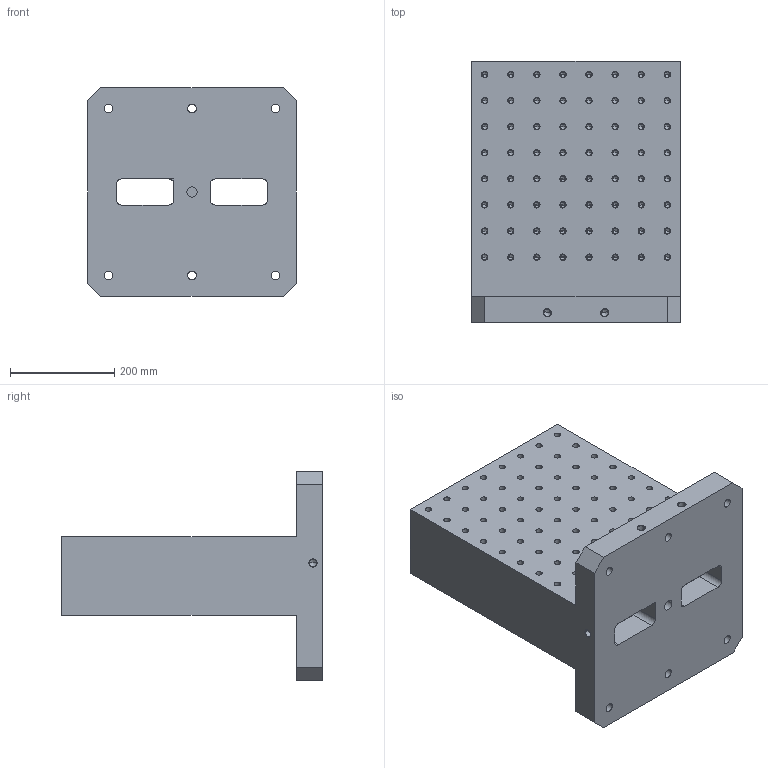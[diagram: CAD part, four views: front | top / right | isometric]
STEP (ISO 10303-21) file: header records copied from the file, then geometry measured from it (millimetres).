
FILE_DESCRIPTION((''),'2;1');
FILE_NAME('FG_WH_TOMB_RCGRDNP002','2026-05-20T15:24:37',('Admin'),(''),'CREO PARAMETRIC BY PTC INC, 2025010','CREO PARAMETRIC BY PTC INC, 2025010','');
FILE_SCHEMA(('CONFIG_CONTROL_DESIGN'));
Length unit declared in the file: millimetre
Products named in the file (1): FG_WH_TOMB_RCGRDNP002
Bounding box: 400 x 500 x 400 mm (x, y, z)
Volume: 26104876.5 mm3; surface area: 1579601.5 mm2
Topology: 1 solids, 137 shells, 1451 faces, 3519 edges, 2210 vertices
Faces by surface type: cylinder 853, plane 326, cone 272
Entity records: 41246 total; most frequent: DIRECTION 8129, CARTESIAN_POINT 6909, ORIENTED_EDGE 5950, AXIS2_PLACEMENT_3D 3430, EDGE_CURVE 3247, VERTEX_POINT 2210, CIRCLE 1978, EDGE_LOOP 1883
